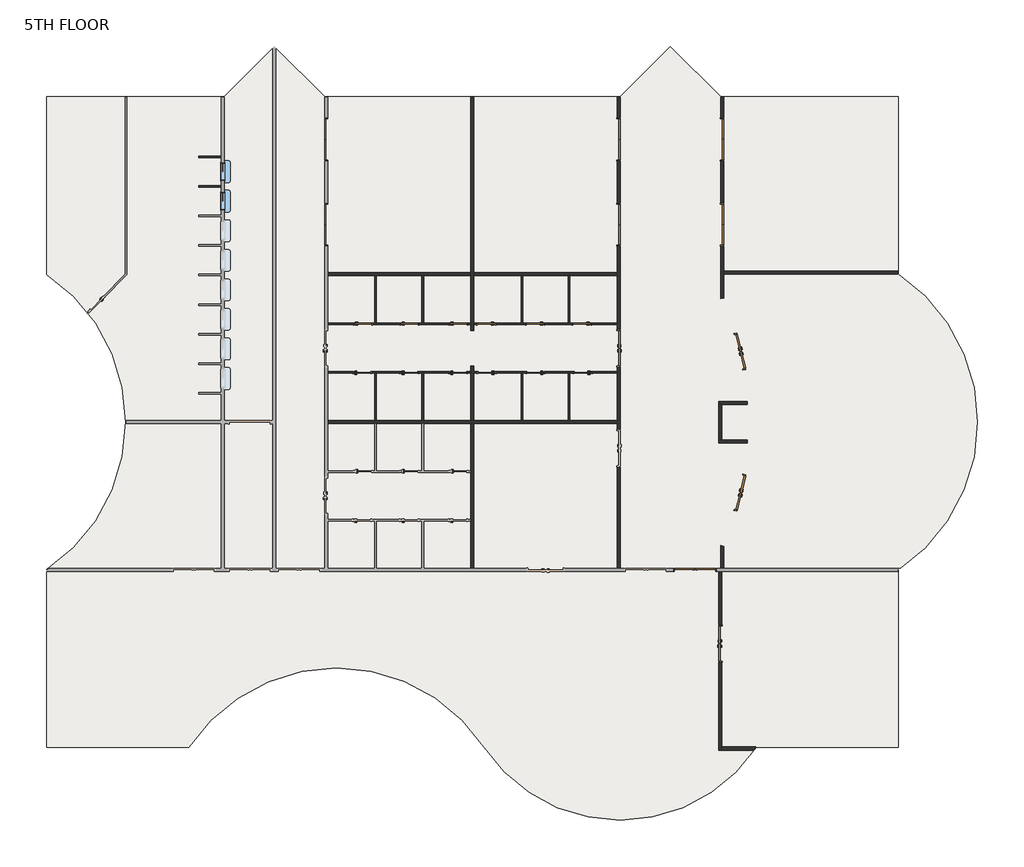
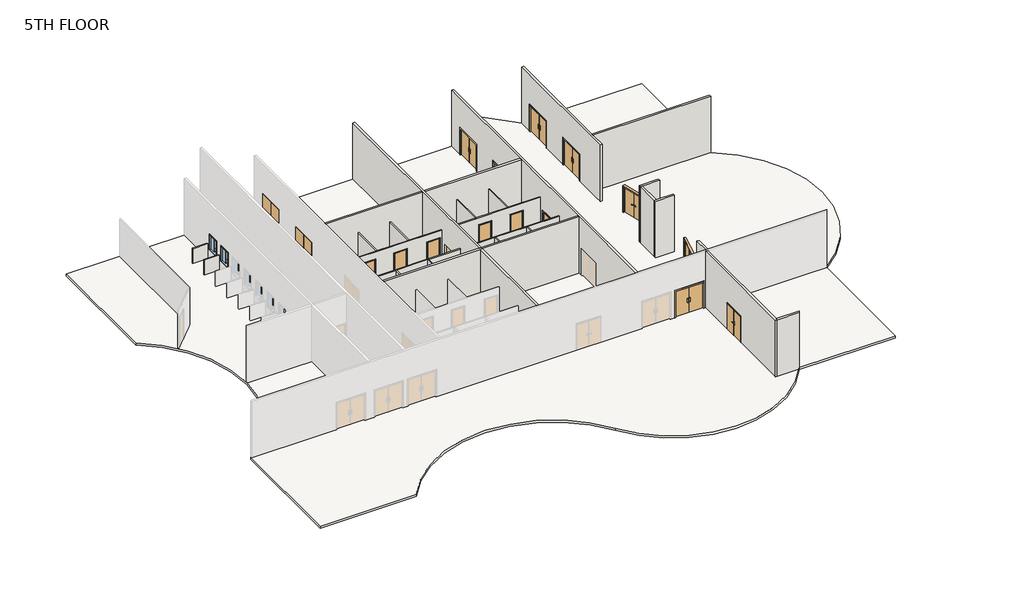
# One storey, part 2 of 2: 26 walls, 23 doors, 2 windows, 1 slab.
"""IFC4 building model written with IfcOpenShell, lengths in millimetres."""

from ifc_helpers import new_model, si_unit, point, frame, frame_2d, origin, place, context, project, spatial, polyline, circle_curve, trimmed, segment, composite_curve, outline, extrude, faceted_brep, transform, mapped, element, save
from ifc_brep_helpers import plane_surface, cylinder_surface, advanced_brep
from components import door_2f250f70, door_df8e76c5, door_0b13e4d9, door_b3a27a16, door_979b1b8c, door_f8b587be, pass_thru_4x3_19d81059

model = new_model("IFC4")

# Units and contexts
model_context = context("Model", 3, world=origin())
ifc_project = project(units=[si_unit("LENGTHUNIT", "METRE", prefix="MILLI")], contexts=[model_context])

# Site, building, storey
site = spatial("IfcSite", under=ifc_project)
building = spatial("IfcBuilding", under=site)
storey = spatial("IfcBuildingStorey", under=building, Name="5TH FLOOR", Elevation=22860.0)

# Doors
placement = place(None, origin())
door_shape = door_2f250f70(model_context)
element("IfcDoor", 1, ObjectType="Door-Passage-Double-Flush : 72\" x 82\"", at=placement, inside=storey, context=model_context, shape_type="MappedRepresentation", body=[
    mapped(door_shape, transform((35885.2621514, 20561.4429091, 22860.0), x_axis=(0.23975975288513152, -0.9708322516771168, 0.0), y_axis=(0.9708322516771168, 0.23975975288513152, 0.0), z_axis=(0.0, 0.0, 1.0))),
])
element("IfcDoor", 2, ObjectType="Door-Passage-Double-Flush : 72\" x 82\"", at=placement, inside=storey, context=model_context, shape_type="MappedRepresentation", body=[
    mapped(door_shape, transform((34887.5089577, 5494.3375, 22860.0), x_axis=(0.0, 1.0, 0.0), y_axis=(-1.0, 0.0, 0.0), z_axis=(0.0, 0.0, 1.0))),
])
door_2_shape = door_df8e76c5(model_context)
element("IfcDoor", 3, ObjectType="Door-Passage-Double-Flush : 72\" x 82\"", at=placement, inside=storey, context=model_context, shape_type="MappedRepresentation", body=[
    mapped(door_2_shape, transform((35886.7385063, 13277.3403388, 22860.0), x_axis=(0.23936619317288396, 0.9709293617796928, 0.0), y_axis=(-0.9709293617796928, 0.23936619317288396, 0.0), z_axis=(0.0, 0.0, 1.0))),
])
element("IfcDoor", 4, ObjectType="Door-Passage-Double-Flush : 72\" x 82\"", at=placement, inside=storey, context=model_context, shape_type="MappedRepresentation", body=[
    mapped(door_2_shape, transform((29628.0650257, 20729.575, 22860.0), x_axis=(0.0, 1.0, 0.0), y_axis=(-1.0, 0.0, 0.0), z_axis=(0.0, 0.0, 1.0))),
])
door_3_shape = door_0b13e4d9(model_context)
element("IfcDoor", 5, ObjectType="Door-Passage-Double-Flush-Dbl_Acting : 84\" x 84\"", at=placement, inside=storey, context=model_context, shape_type="MappedRepresentation", body=[
    mapped(door_3_shape, transform((33564.0300515, 9293.225, 22860.0), x_axis=(-1.0, 0.0, 0.0), y_axis=(0.0, -1.0, 0.0), z_axis=(0.0, 0.0, 1.0))),
])
element("IfcDoor", 6, ObjectType="Door-Passage-Double-Flush-Dbl_Acting : 84\" x 84\"", at=placement, inside=storey, context=model_context, shape_type="MappedRepresentation", body=[
    mapped(door_3_shape, transform((29628.0650257, 31499.175, 22860.0), x_axis=(0.0, 1.0, 0.0), y_axis=(-1.0, 0.0, 0.0), z_axis=(0.0, 0.0, 1.0))),
])
element("IfcDoor", 7, ObjectType="Door-Passage-Double-Flush-Dbl_Acting : 84\" x 84\"", at=placement, inside=storey, context=model_context, shape_type="MappedRepresentation", body=[
    mapped(door_3_shape, transform((29628.0650257, 27101.8, 22860.0), x_axis=(0.0, 1.0, 0.0), y_axis=(-1.0, 0.0, 0.0), z_axis=(0.0, 0.0, 1.0))),
])
door_4_shape = door_b3a27a16(model_context)
element("IfcDoor", 8, ObjectType="Door-Passage-Double-Flush-Dbl_Acting : 84\" x 84\"", at=placement, inside=storey, context=model_context, shape_type="MappedRepresentation", body=[
    mapped(door_4_shape, transform((14556.3400257, 31499.175, 22860.0), x_axis=(0.0, 1.0, 0.0), y_axis=(-1.0, 0.0, 0.0), z_axis=(0.0, 0.0, 1.0))),
])
element("IfcDoor", 9, ObjectType="Door-Passage-Double-Flush-Dbl_Acting : 84\" x 84\"", at=placement, inside=storey, context=model_context, shape_type="MappedRepresentation", body=[
    mapped(door_4_shape, transform((14556.3400257, 27101.8, 22860.0), x_axis=(0.0, 1.0, 0.0), y_axis=(-1.0, 0.0, 0.0), z_axis=(0.0, 0.0, 1.0))),
])
element("IfcDoor", 10, ObjectType="Door-Passage-Double-Flush-Dbl_Acting : 84\" x 84\"", at=placement, inside=storey, context=model_context, shape_type="MappedRepresentation", body=[
    mapped(door_4_shape, transform((34956.2675515, 31499.175, 22860.0), x_axis=(0.0, -1.0, 0.0), y_axis=(1.0, 0.0, 0.0), z_axis=(0.0, 0.0, 1.0))),
])
element("IfcDoor", 11, ObjectType="Door-Passage-Double-Flush-Dbl_Acting : 84\" x 84\"", at=placement, inside=storey, context=model_context, shape_type="MappedRepresentation", body=[
    mapped(door_4_shape, transform((34956.2675515, 27101.8, 22860.0), x_axis=(0.0, -1.0, 0.0), y_axis=(1.0, 0.0, 0.0), z_axis=(0.0, 0.0, 1.0))),
])
door_5_shape = door_979b1b8c(model_context)
element("IfcDoor", 12, ObjectType="Door-Passage-Single-Flush : 36\" x 96\"", at=placement, inside=storey, context=model_context, shape_type="MappedRepresentation", body=[
    mapped(door_5_shape, transform((16456.5775257, 21977.35, 22860.0), x_axis=(1.0, 0.0, 0.0), y_axis=(0.0, 1.0, 0.0), z_axis=(0.0, 0.0, 1.0))),
])
element("IfcDoor", 13, ObjectType="Door-Passage-Single-Flush : 36\" x 96\"", at=placement, inside=storey, context=model_context, shape_type="MappedRepresentation", body=[
    mapped(door_5_shape, transform((18855.2900257, 21977.35, 22860.0), x_axis=(1.0, 0.0, 0.0), y_axis=(0.0, 1.0, 0.0), z_axis=(0.0, 0.0, 1.0))),
])
element("IfcDoor", 14, ObjectType="Door-Passage-Single-Flush : 36\" x 96\"", at=placement, inside=storey, context=model_context, shape_type="MappedRepresentation", body=[
    mapped(door_5_shape, transform((21373.0650257, 21977.35, 22860.0), x_axis=(1.0, 0.0, 0.0), y_axis=(0.0, 1.0, 0.0), z_axis=(0.0, 0.0, 1.0))),
])
element("IfcDoor", 15, ObjectType="Door-Passage-Single-Flush : 36\" x 96\"", at=placement, inside=storey, context=model_context, shape_type="MappedRepresentation", body=[
    mapped(door_5_shape, transform((27778.6275257, 19481.8, 22860.0), x_axis=(-1.0, 0.0, 0.0), y_axis=(0.0, -1.0, 0.0), z_axis=(0.0, 0.0, 1.0))),
])
element("IfcDoor", 16, ObjectType="Door-Passage-Single-Flush : 36\" x 96\"", at=placement, inside=storey, context=model_context, shape_type="MappedRepresentation", body=[
    mapped(door_5_shape, transform((25348.1650257, 19481.8, 22860.0), x_axis=(-1.0, 0.0, 0.0), y_axis=(0.0, -1.0, 0.0), z_axis=(0.0, 0.0, 1.0))),
])
element("IfcDoor", 17, ObjectType="Door-Passage-Single-Flush : 36\" x 96\"", at=placement, inside=storey, context=model_context, shape_type="MappedRepresentation", body=[
    mapped(door_5_shape, transform((22830.3900257, 19481.8, 22860.0), x_axis=(-1.0, 0.0, 0.0), y_axis=(0.0, -1.0, 0.0), z_axis=(0.0, 0.0, 1.0))),
])
door_6_shape = door_f8b587be(model_context)
element("IfcDoor", 18, ObjectType="Door-Passage-Single-Flush : 36\" x 96\"", at=placement, inside=storey, context=model_context, shape_type="MappedRepresentation", body=[
    mapped(door_6_shape, transform((16405.7775257, 19481.8, 22860.0), x_axis=(1.0, 0.0, 0.0), y_axis=(0.0, 1.0, 0.0), z_axis=(0.0, 0.0, 1.0))),
])
element("IfcDoor", 19, ObjectType="Door-Passage-Single-Flush : 36\" x 96\"", at=placement, inside=storey, context=model_context, shape_type="MappedRepresentation", body=[
    mapped(door_6_shape, transform((18836.2400257, 19481.8, 22860.0), x_axis=(1.0, 0.0, 0.0), y_axis=(0.0, 1.0, 0.0), z_axis=(0.0, 0.0, 1.0))),
])
element("IfcDoor", 20, ObjectType="Door-Passage-Single-Flush : 36\" x 96\"", at=placement, inside=storey, context=model_context, shape_type="MappedRepresentation", body=[
    mapped(door_6_shape, transform((21354.0150257, 19481.8, 22860.0), x_axis=(1.0, 0.0, 0.0), y_axis=(0.0, 1.0, 0.0), z_axis=(0.0, 0.0, 1.0))),
])
element("IfcDoor", 21, ObjectType="Door-Passage-Single-Flush : 36\" x 96\"", at=placement, inside=storey, context=model_context, shape_type="MappedRepresentation", body=[
    mapped(door_6_shape, transform((27727.8275257, 21977.35, 22860.0), x_axis=(-1.0, 0.0, 0.0), y_axis=(0.0, -1.0, 0.0), z_axis=(0.0, 0.0, 1.0))),
])
element("IfcDoor", 22, ObjectType="Door-Passage-Single-Flush : 36\" x 96\"", at=placement, inside=storey, context=model_context, shape_type="MappedRepresentation", body=[
    mapped(door_6_shape, transform((25329.1150257, 21977.35, 22860.0), x_axis=(-1.0, 0.0, 0.0), y_axis=(0.0, -1.0, 0.0), z_axis=(0.0, 0.0, 1.0))),
])
element("IfcDoor", 23, ObjectType="Door-Passage-Single-Flush : 36\" x 96\"", at=placement, inside=storey, context=model_context, shape_type="MappedRepresentation", body=[
    mapped(door_6_shape, transform((22811.3400257, 21977.35, 22860.0), x_axis=(-1.0, 0.0, 0.0), y_axis=(0.0, -1.0, 0.0), z_axis=(0.0, 0.0, 1.0))),
])

# Slab
element("IfcSlab", 24, ObjectType="ARCHITECTURAL FINISH FLOOR", at=placement, inside=storey, context=model_context, shape_type="SweptSolid", body=[
    extrude(outline(composite_curve([segment(polyline([(9294.3144878, 33696.275), (11885.8887629, 36287.8492751), (14477.463038, 33696.275), (29706.9420135, 33696.275), (32298.5162886, 36287.8492751), (34890.0905637, 33696.275), (44041.5300515, 33696.275), (44041.5300515, 24546.3877275)]), True, "CONTINUOUS"), segment(trimmed(circle_curve(frame_2d((38974.293871, 16919.575)), 9156.7), [point((44041.5300515, 24546.3877275))], [point((44041.5300515, 9292.7622725))], False, "CARTESIAN"), True, "CONTINUOUS"), segment(polyline([(44041.5300515, 9292.7622725), (44041.5300515, 142.875), (36720.4425102, 142.875)]), True, "CONTINUOUS"), segment(trimmed(circle_curve(frame_2d((29712.2025257, 4799.7966199)), 8414.4130309), [point((36720.4425102, 142.875))], [point((22700.1916667, 148.5548109))], False, "CARTESIAN"), True, "CONTINUOUS"), segment(trimmed(circle_curve(frame_2d((15090.775, -4898.9611805)), 9131.3), [point((22700.1916667, 148.5548109))], [point((7477.593824, 142.875))], True, "CARTESIAN"), True, "CONTINUOUS"), segment(polyline([(7477.593824, 142.875), (142.875, 142.875), (142.875, 9306.393824)]), True, "CONTINUOUS"), segment(trimmed(circle_curve(frame_2d((-4898.9611805, 16919.575)), 9131.3), [point((142.875, 9306.393824))], [point((142.875, 24532.756176))], True, "CARTESIAN"), True, "CONTINUOUS"), segment(polyline([(142.875, 24532.756176), (142.875, 33696.275), (9294.3144878, 33696.275)]), True, "CONTINUOUS")], self_intersect=False)), frame((0.0, 0.0, 22707.6), z_axis=(0.0, 0.0, 1.0), x_axis=(1.0, 0.0, 0.0)), (0.0, 0.0, 1.0), 171.45),
])

# Walls
element("IfcWall", 25, ObjectType="SYR_INT_ONE_HOUR", at=placement, inside=storey, context=model_context, shape_type="SweptSolid", body=[
    extrude(outline(polyline([(17066.1775257, 22023.3875), (17066.1775257, 24461.7875), (17145.5525257, 24461.7875), (17145.5525257, 22023.3875), (17066.1775257, 22023.3875)])), frame((0.0, 0.0, 22860.0), z_axis=(0.0, 0.0, 1.0), x_axis=(1.0, 0.0, 0.0)), (0.0, 0.0, 1.0), 3048.0),
])
element("IfcWall", 26, ObjectType="SYR_INT_ONE_HOUR", at=placement, inside=storey, context=model_context, shape_type="SweptSolid", body=[
    extrude(outline(polyline([(19576.0150257, 19435.7625), (19576.0150257, 16997.3625), (19496.6400257, 16997.3625), (19496.6400257, 19435.7625), (19576.0150257, 19435.7625)])), frame((0.0, 0.0, 22860.0), z_axis=(0.0, 0.0, 1.0), x_axis=(1.0, 0.0, 0.0)), (0.0, 0.0, 1.0), 3048.0),
])
element("IfcWall", 27, ObjectType="SYR_INT_ONE_HOUR", at=placement, inside=storey, context=model_context, shape_type="Brep", body=[
    faceted_brep([(14627.7775257, 22023.3875, 25908.0), (17066.1775257, 22023.3875, 25908.0), (17145.5525257, 22023.3875, 25908.0), (19496.6400257, 22023.3875, 25908.0), (19576.0150257, 22023.3875, 25908.0), (22014.4150257, 22023.3875, 25908.0), (22014.4150257, 22023.3875, 22860.0), (21862.0150257, 22023.3875, 22860.0), (21862.0150257, 22023.3875, 25330.15), (20884.1150257, 22023.3875, 25330.15), (20884.1150257, 22023.3875, 22860.0), (19576.0150257, 22023.3875, 22860.0), (19496.6400257, 22023.3875, 22860.0), (19344.2400257, 22023.3875, 22860.0), (19344.2400257, 22023.3875, 25330.15), (18366.3400257, 22023.3875, 25330.15), (18366.3400257, 22023.3875, 22860.0), (17145.5525257, 22023.3875, 22860.0), (17066.1775257, 22023.3875, 22860.0), (16945.5275257, 22023.3875, 22860.0), (16945.5275257, 22023.3875, 25330.15), (15967.6275257, 22023.3875, 25330.15), (15967.6275257, 22023.3875, 22860.0), (14627.7775257, 22023.3875, 22860.0), (22014.4150257, 21944.0125, 25908.0), (14627.7775257, 21944.0125, 25908.0), (14627.7775257, 21944.0125, 22860.0), (15967.6275257, 21944.0125, 22860.0), (15967.6275257, 21944.0125, 25330.15), (16945.5275257, 21944.0125, 25330.15), (16945.5275257, 21944.0125, 22860.0), (18366.3400257, 21944.0125, 22860.0), (18366.3400257, 21944.0125, 25330.15), (19344.2400257, 21944.0125, 25330.15), (19344.2400257, 21944.0125, 22860.0), (20884.1150257, 21944.0125, 22860.0), (20884.1150257, 21944.0125, 25330.15), (21862.0150257, 21944.0125, 25330.15), (21862.0150257, 21944.0125, 22860.0), (22014.4150257, 21944.0125, 22860.0)], [[[0, 1, 2, 3, 4, 5, 6, 7, 8, 9, 10, 11, 12, 13, 14, 15, 16, 17, 18, 19, 20, 21, 22, 23]], [[24, 25, 26, 27, 28, 29, 30, 31, 32, 33, 34, 35, 36, 37, 38, 39]], [[23, 22, 27, 26]], [[30, 19, 18, 17, 16, 31]], [[34, 13, 12, 11, 10, 35]], [[6, 39, 38, 7]], [[5, 4, 3, 2, 1, 0, 25, 24]], [[29, 20, 19, 30]], [[20, 29, 28, 21]], [[21, 28, 27, 22]], [[14, 13, 34, 33]], [[15, 14, 33, 32]], [[16, 15, 32, 31]], [[37, 8, 7, 38]], [[8, 37, 36, 9]], [[9, 36, 35, 10]], [[0, 23, 26, 25]], [[6, 5, 24, 39]]]),
])
element("IfcWall", 28, ObjectType="SYR_INT_ONE_HOUR", at=placement, inside=storey, context=model_context, shape_type="Brep", body=[
    faceted_brep([(14627.7775257, 19515.1375, 25908.0), (22014.4150257, 19515.1375, 25908.0), (22014.4150257, 19515.1375, 22860.0), (21842.9650257, 19515.1375, 22860.0), (21842.9650257, 19515.1375, 25330.15), (20865.0650257, 19515.1375, 25330.15), (20865.0650257, 19515.1375, 22860.0), (19325.1900257, 19515.1375, 22860.0), (19325.1900257, 19515.1375, 25330.15), (18347.2900257, 19515.1375, 25330.15), (18347.2900257, 19515.1375, 22860.0), (16894.7275257, 19515.1375, 22860.0), (16894.7275257, 19515.1375, 25330.15), (15916.8275257, 19515.1375, 25330.15), (15916.8275257, 19515.1375, 22860.0), (14627.7775257, 19515.1375, 22860.0), (22014.4150257, 19435.7625, 25908.0), (19576.0150257, 19435.7625, 25908.0), (19496.6400257, 19435.7625, 25908.0), (17145.5525257, 19435.7625, 25908.0), (17066.1775257, 19435.7625, 25908.0), (14627.7775257, 19435.7625, 25908.0), (14627.7775257, 19435.7625, 22860.0), (15916.8275257, 19435.7625, 22860.0), (15916.8275257, 19435.7625, 25330.15), (16894.7275257, 19435.7625, 25330.15), (16894.7275257, 19435.7625, 22860.0), (17066.1775257, 19435.7625, 22860.0), (17145.5525257, 19435.7625, 22860.0), (18347.2900257, 19435.7625, 22860.0), (18347.2900257, 19435.7625, 25330.15), (19325.1900257, 19435.7625, 25330.15), (19325.1900257, 19435.7625, 22860.0), (19496.6400257, 19435.7625, 22860.0), (19576.0150257, 19435.7625, 22860.0), (20865.0650257, 19435.7625, 22860.0), (20865.0650257, 19435.7625, 25330.15), (21842.9650257, 19435.7625, 25330.15), (21842.9650257, 19435.7625, 22860.0), (22014.4150257, 19435.7625, 22860.0)], [[[0, 1, 2, 3, 4, 5, 6, 7, 8, 9, 10, 11, 12, 13, 14, 15]], [[16, 17, 18, 19, 20, 21, 22, 23, 24, 25, 26, 27, 28, 29, 30, 31, 32, 33, 34, 35, 36, 37, 38, 39]], [[15, 14, 23, 22]], [[26, 11, 10, 29, 28, 27]], [[32, 7, 6, 35, 34, 33]], [[2, 39, 38, 3]], [[1, 0, 21, 20, 19, 18, 17, 16]], [[25, 12, 11, 26]], [[12, 25, 24, 13]], [[13, 24, 23, 14]], [[31, 8, 7, 32]], [[8, 31, 30, 9]], [[9, 30, 29, 10]], [[37, 4, 3, 38]], [[4, 37, 36, 5]], [[5, 36, 35, 6]], [[0, 15, 22, 21]], [[2, 1, 16, 39]]]),
])
element("IfcWall", 29, ObjectType="SYR_INT_ONE_HOUR", at=placement, inside=storey, context=model_context, shape_type="SweptSolid", body=[
    extrude(outline(polyline([(17066.1775257, 16997.3625), (17066.1775257, 19435.7625), (17145.5525257, 19435.7625), (17145.5525257, 16997.3625), (17066.1775257, 16997.3625)])), frame((0.0, 0.0, 22860.0), z_axis=(0.0, 0.0, 1.0), x_axis=(1.0, 0.0, 0.0)), (0.0, 0.0, 1.0), 3048.0),
])
element("IfcWall", 30, ObjectType="SYR_INT_ONE_HOUR", at=placement, inside=storey, context=model_context, shape_type="SweptSolid", body=[
    extrude(outline(polyline([(19576.0150257, 24461.7875), (19576.0150257, 22023.3875), (19496.6400257, 22023.3875), (19496.6400257, 24461.7875), (19576.0150257, 24461.7875)])), frame((0.0, 0.0, 22860.0), z_axis=(0.0, 0.0, 1.0), x_axis=(1.0, 0.0, 0.0)), (0.0, 0.0, 1.0), 3048.0),
])
element("IfcWall", 31, ObjectType="SYR_INT_ONE_HOUR", at=placement, inside=storey, context=model_context, shape_type="SweptSolid", body=[
    extrude(outline(polyline([(7979.2710938, 29111.575), (9144.0, 29111.575), (9144.0, 29032.2), (7979.2710938, 29032.2), (7979.2710938, 29111.575)])), frame((0.0, 0.0, 22860.0), z_axis=(0.0, 0.0, 1.0), x_axis=(1.0, 0.0, 0.0)), (0.0, 0.0, 1.0), 1219.2),
])
element("IfcWall", 32, ObjectType="SYR_INT_ONE_HOUR", at=placement, inside=storey, context=model_context, shape_type="SweptSolid", body=[
    extrude(outline(polyline([(7979.2710938, 30635.575), (9144.0, 30635.575), (9144.0, 30556.2), (7979.2710938, 30556.2), (7979.2710938, 30635.575)])), frame((0.0, 0.0, 22860.0), z_axis=(0.0, 0.0, 1.0), x_axis=(1.0, 0.0, 0.0)), (0.0, 0.0, 1.0), 1219.2),
])
element("IfcWall", 33, ObjectType="SYR_INT_ONE_HOUR", at=placement, inside=storey, context=model_context, shape_type="SweptSolid", body=[
    extrude(outline(polyline([(27038.8525257, 22023.3875), (27038.8525257, 24461.7875), (27118.2275257, 24461.7875), (27118.2275257, 22023.3875), (27038.8525257, 22023.3875)])), frame((0.0, 0.0, 22860.0), z_axis=(0.0, 0.0, 1.0), x_axis=(1.0, 0.0, 0.0)), (0.0, 0.0, 1.0), 3048.0),
])
element("IfcWall", 34, ObjectType="SYR_INT_ONE_HOUR", at=placement, inside=storey, context=model_context, shape_type="SweptSolid", body=[
    extrude(outline(polyline([(24687.7650257, 19435.7625), (24687.7650257, 16997.3625), (24608.3900257, 16997.3625), (24608.3900257, 19435.7625), (24687.7650257, 19435.7625)])), frame((0.0, 0.0, 22860.0), z_axis=(0.0, 0.0, 1.0), x_axis=(1.0, 0.0, 0.0)), (0.0, 0.0, 1.0), 3048.0),
])
element("IfcWall", 35, ObjectType="SYR_INT_ONE_HOUR", at=placement, inside=storey, context=model_context, shape_type="Brep", body=[
    faceted_brep([(29556.6275257, 21944.0125, 25908.0), (22169.9900257, 21944.0125, 25908.0), (22169.9900257, 21944.0125, 22860.0), (22322.3900257, 21944.0125, 22860.0), (22322.3900257, 21944.0125, 25330.15), (23300.2900257, 21944.0125, 25330.15), (23300.2900257, 21944.0125, 22860.0), (24840.1650257, 21944.0125, 22860.0), (24840.1650257, 21944.0125, 25330.15), (25818.0650257, 21944.0125, 25330.15), (25818.0650257, 21944.0125, 22860.0), (27238.8775257, 21944.0125, 22860.0), (27238.8775257, 21944.0125, 25330.15), (28216.7775257, 21944.0125, 25330.15), (28216.7775257, 21944.0125, 22860.0), (29556.6275257, 21944.0125, 22860.0), (22169.9900257, 22023.3875, 25908.0), (24608.3900257, 22023.3875, 25908.0), (24687.7650257, 22023.3875, 25908.0), (27038.8525257, 22023.3875, 25908.0), (27118.2275257, 22023.3875, 25908.0), (29556.6275257, 22023.3875, 25908.0), (29556.6275257, 22023.3875, 22860.0), (28216.7775257, 22023.3875, 22860.0), (28216.7775257, 22023.3875, 25330.15), (27238.8775257, 22023.3875, 25330.15), (27238.8775257, 22023.3875, 22860.0), (27118.2275257, 22023.3875, 22860.0), (27038.8525257, 22023.3875, 22860.0), (25818.0650257, 22023.3875, 22860.0), (25818.0650257, 22023.3875, 25330.15), (24840.1650257, 22023.3875, 25330.15), (24840.1650257, 22023.3875, 22860.0), (24687.7650257, 22023.3875, 22860.0), (24608.3900257, 22023.3875, 22860.0), (23300.2900257, 22023.3875, 22860.0), (23300.2900257, 22023.3875, 25330.15), (22322.3900257, 22023.3875, 25330.15), (22322.3900257, 22023.3875, 22860.0), (22169.9900257, 22023.3875, 22860.0)], [[[0, 1, 2, 3, 4, 5, 6, 7, 8, 9, 10, 11, 12, 13, 14, 15]], [[16, 17, 18, 19, 20, 21, 22, 23, 24, 25, 26, 27, 28, 29, 30, 31, 32, 33, 34, 35, 36, 37, 38, 39]], [[15, 14, 23, 22]], [[26, 11, 10, 29, 28, 27]], [[32, 7, 6, 35, 34, 33]], [[2, 39, 38, 3]], [[1, 0, 21, 20, 19, 18, 17, 16]], [[25, 12, 11, 26]], [[12, 25, 24, 13]], [[13, 24, 23, 14]], [[8, 7, 32, 31]], [[9, 8, 31, 30]], [[10, 9, 30, 29]], [[37, 4, 3, 38]], [[4, 37, 36, 5]], [[5, 36, 35, 6]], [[0, 15, 22, 21]], [[2, 1, 16, 39]]]),
])
element("IfcWall", 36, ObjectType="SYR_INT_ONE_HOUR", at=placement, inside=storey, context=model_context, shape_type="Brep", body=[
    faceted_brep([(29556.6275257, 19435.7625, 25908.0), (27118.2275257, 19435.7625, 25908.0), (27038.8525257, 19435.7625, 25908.0), (24687.7650257, 19435.7625, 25908.0), (24608.3900257, 19435.7625, 25908.0), (22169.9900257, 19435.7625, 25908.0), (22169.9900257, 19435.7625, 22860.0), (22341.4400257, 19435.7625, 22860.0), (22341.4400257, 19435.7625, 25330.15), (23319.3400257, 19435.7625, 25330.15), (23319.3400257, 19435.7625, 22860.0), (24608.3900257, 19435.7625, 22860.0), (24687.7650257, 19435.7625, 22860.0), (24859.2150257, 19435.7625, 22860.0), (24859.2150257, 19435.7625, 25330.15), (25837.1150257, 19435.7625, 25330.15), (25837.1150257, 19435.7625, 22860.0), (27038.8525257, 19435.7625, 22860.0), (27118.2275257, 19435.7625, 22860.0), (27289.6775257, 19435.7625, 22860.0), (27289.6775257, 19435.7625, 25330.15), (28267.5775257, 19435.7625, 25330.15), (28267.5775257, 19435.7625, 22860.0), (29556.6275257, 19435.7625, 22860.0), (22169.9900257, 19515.1375, 25908.0), (29556.6275257, 19515.1375, 25908.0), (29556.6275257, 19515.1375, 22860.0), (28267.5775257, 19515.1375, 22860.0), (28267.5775257, 19515.1375, 25330.15), (27289.6775257, 19515.1375, 25330.15), (27289.6775257, 19515.1375, 22860.0), (25837.1150257, 19515.1375, 22860.0), (25837.1150257, 19515.1375, 25330.15), (24859.2150257, 19515.1375, 25330.15), (24859.2150257, 19515.1375, 22860.0), (23319.3400257, 19515.1375, 22860.0), (23319.3400257, 19515.1375, 25330.15), (22341.4400257, 19515.1375, 25330.15), (22341.4400257, 19515.1375, 22860.0), (22169.9900257, 19515.1375, 22860.0)], [[[0, 1, 2, 3, 4, 5, 6, 7, 8, 9, 10, 11, 12, 13, 14, 15, 16, 17, 18, 19, 20, 21, 22, 23]], [[24, 25, 26, 27, 28, 29, 30, 31, 32, 33, 34, 35, 36, 37, 38, 39]], [[23, 22, 27, 26]], [[30, 19, 18, 17, 16, 31]], [[34, 13, 12, 11, 10, 35]], [[6, 39, 38, 7]], [[5, 4, 3, 2, 1, 0, 25, 24]], [[29, 20, 19, 30]], [[20, 29, 28, 21]], [[21, 28, 27, 22]], [[33, 14, 13, 34]], [[14, 33, 32, 15]], [[15, 32, 31, 16]], [[37, 8, 7, 38]], [[8, 37, 36, 9]], [[9, 36, 35, 10]], [[0, 23, 26, 25]], [[6, 5, 24, 39]]]),
])
element("IfcWall", 37, ObjectType="SYR_INT_ONE_HOUR", at=placement, inside=storey, context=model_context, shape_type="SweptSolid", body=[
    extrude(outline(polyline([(27038.8525257, 16997.3625), (27038.8525257, 19435.7625), (27118.2275257, 19435.7625), (27118.2275257, 16997.3625), (27038.8525257, 16997.3625)])), frame((0.0, 0.0, 22860.0), z_axis=(0.0, 0.0, 1.0), x_axis=(1.0, 0.0, 0.0)), (0.0, 0.0, 1.0), 3048.0),
])
element("IfcWall", 38, ObjectType="SYR_INT_ONE_HOUR", at=placement, inside=storey, context=model_context, shape_type="SweptSolid", body=[
    extrude(outline(polyline([(24687.7650257, 24461.7875), (24687.7650257, 22023.3875), (24608.3900257, 22023.3875), (24608.3900257, 24461.7875), (24687.7650257, 24461.7875)])), frame((0.0, 0.0, 22860.0), z_axis=(0.0, 0.0, 1.0), x_axis=(1.0, 0.0, 0.0)), (0.0, 0.0, 1.0), 3048.0),
])
element("IfcWall", 39, ObjectType="SYR_INT_TWO_HOUR", at=placement, inside=storey, context=model_context, shape_type="Brep", body=[
    faceted_brep([(34803.3714577, 0.0, 27432.0), (34803.3714577, 9221.7875, 27432.0), (34803.3714577, 9221.7875, 22860.0), (34803.3714577, 6459.5375, 22860.0), (34803.3714577, 6459.5375, 25044.4), (34803.3714577, 4529.1375, 25044.4), (34803.3714577, 4529.1375, 22860.0), (34803.3714577, 0.0, 22860.0), (34958.9464577, 9221.7875, 27432.0), (34958.9464577, 155.575, 27432.0), (34958.9464577, 0.0, 27432.0), (34958.9464577, 0.0, 22860.0), (34958.9464577, 155.575, 22860.0), (34958.9464577, 4529.1375, 22860.0), (34958.9464577, 4529.1375, 25044.4), (34958.9464577, 6459.5375, 25044.4), (34958.9464577, 6459.5375, 22860.0), (34958.9464577, 9221.7875, 22860.0)], [[[0, 1, 2, 3, 4, 5, 6, 7]], [[8, 9, 10, 11, 12, 13, 14, 15, 16, 17]], [[2, 17, 16, 3]], [[11, 7, 6, 13, 12]], [[1, 0, 10, 9, 8]], [[2, 1, 8, 17]], [[0, 7, 11, 10]], [[15, 4, 3, 16]], [[4, 15, 14, 5]], [[5, 14, 13, 6]]]),
])
element("IfcWall", 40, ObjectType="SYR_INT_TWO_HOUR", at=placement, inside=storey, context=model_context, shape_type="SweptSolid", body=[
    extrude(outline(composite_curve([segment(polyline([(36607.9065696, 0.0), (34958.9464577, 0.0), (34958.9464577, 155.575), (36713.6300515, 155.575)]), True, "CONTINUOUS"), segment(trimmed(circle_curve(frame_2d((29712.2025257, 4799.7966199)), 8401.7130309), [point((36713.6300515, 155.575))], [point((36607.9065696, 0.0))], False, "CARTESIAN"), True, "CONTINUOUS")], self_intersect=False)), frame((0.0, 0.0, 22860.0), z_axis=(0.0, 0.0, 1.0), x_axis=(1.0, 0.0, 0.0)), (0.0, 0.0, 1.0), 4572.0),
])
element("IfcWall", 41, ObjectType="SYR_INT_TWO_HOUR", at=placement, inside=storey, context=model_context, shape_type="Brep", body=[
    faceted_brep([(29556.6275257, 9377.3625, 27432.0), (29556.6275257, 16841.7875, 27432.0), (29556.6275257, 16997.3625, 27432.0), (29556.6275257, 24461.7875, 27432.0), (29556.6275257, 24617.3625, 27432.0), (29556.6275257, 33683.575, 27432.0), (29556.6275257, 33683.575, 22860.0), (29556.6275257, 32616.775, 22860.0), (29556.6275257, 32616.775, 25095.2), (29556.6275257, 30381.575, 25095.2), (29556.6275257, 30381.575, 22860.0), (29556.6275257, 28219.4, 22860.0), (29556.6275257, 28219.4, 25095.2), (29556.6275257, 25984.2, 25095.2), (29556.6275257, 25984.2, 22860.0), (29556.6275257, 24617.3625, 22860.0), (29556.6275257, 24461.7875, 22860.0), (29556.6275257, 22023.3875, 22860.0), (29556.6275257, 21944.0125, 22860.0), (29556.6275257, 21694.775, 22860.0), (29556.6275257, 21694.775, 25044.4), (29556.6275257, 19764.375, 25044.4), (29556.6275257, 19764.375, 22860.0), (29556.6275257, 19515.1375, 22860.0), (29556.6275257, 19435.7625, 22860.0), (29556.6275257, 16997.3625, 22860.0), (29556.6275257, 16841.7875, 22860.0), (29556.6275257, 16536.9875, 22860.0), (29556.6275257, 16536.9875, 25044.4), (29556.6275257, 14606.5875, 25044.4), (29556.6275257, 14606.5875, 22860.0), (29556.6275257, 9377.3625, 22860.0), (29712.2025257, 33683.575, 27432.0), (29712.2025257, 9377.3625, 27432.0), (29712.2025257, 9377.3625, 22860.0), (29712.2025257, 14606.5875, 22860.0), (29712.2025257, 14606.5875, 25044.4), (29712.2025257, 16536.9875, 25044.4), (29712.2025257, 16536.9875, 22860.0), (29712.2025257, 19764.375, 22860.0), (29712.2025257, 19764.375, 25044.4), (29712.2025257, 21694.775, 25044.4), (29712.2025257, 21694.775, 22860.0), (29712.2025257, 25984.2, 22860.0), (29712.2025257, 25984.2, 25095.2), (29712.2025257, 28219.4, 25095.2), (29712.2025257, 28219.4, 22860.0), (29712.2025257, 30381.575, 22860.0), (29712.2025257, 30381.575, 25095.2), (29712.2025257, 32616.775, 25095.2), (29712.2025257, 32616.775, 22860.0), (29712.2025257, 33683.575, 22860.0)], [[[0, 1, 2, 3, 4, 5, 6, 7, 8, 9, 10, 11, 12, 13, 14, 15, 16, 17, 18, 19, 20, 21, 22, 23, 24, 25, 26, 27, 28, 29, 30, 31]], [[32, 33, 34, 35, 36, 37, 38, 39, 40, 41, 42, 43, 44, 45, 46, 47, 48, 49, 50, 51]], [[34, 31, 30, 35]], [[42, 19, 18, 17, 16, 15, 14, 43]], [[22, 39, 38, 27, 26, 25, 24, 23]], [[46, 11, 10, 47]], [[7, 6, 51, 50]], [[5, 4, 3, 2, 1, 0, 33, 32]], [[0, 31, 34, 33]], [[41, 20, 19, 42]], [[20, 41, 40, 21]], [[21, 40, 39, 22]], [[45, 12, 11, 46]], [[12, 45, 44, 13]], [[13, 44, 43, 14]], [[49, 8, 7, 50]], [[8, 49, 48, 9]], [[9, 48, 47, 10]], [[29, 36, 35, 30]], [[36, 29, 28, 37]], [[37, 28, 27, 38]], [[6, 5, 32, 51]]]),
])
element("IfcWall", 42, ObjectType="SYR_INT_TWO_HOUR", at=placement, inside=storey, context=model_context, shape_type="Brep", body=[
    faceted_brep([(34884.8300515, 23286.7810764, 27432.0), (34884.8300515, 33683.575, 27432.0), (34884.8300515, 33683.575, 22860.0), (34884.8300515, 32616.775, 22860.0), (34884.8300515, 32616.775, 25095.2), (34884.8300515, 30381.575, 25095.2), (34884.8300515, 30381.575, 22860.0), (34884.8300515, 28219.4, 22860.0), (34884.8300515, 28219.4, 25095.2), (34884.8300515, 25984.2, 25095.2), (34884.8300515, 25984.2, 22860.0), (34884.8300515, 23286.7810764, 22860.0), (35040.4050515, 33683.575, 27432.0), (35040.4050515, 24695.15, 27432.0), (35040.4050515, 24539.575, 27432.0), (35040.4050515, 23320.9573614, 27432.0), (35040.4050515, 23320.9573614, 22860.0), (35040.4050515, 24539.575, 22860.0), (35040.4050515, 24695.15, 22860.0), (35040.4050515, 25984.2, 22860.0), (35040.4050515, 25984.2, 25095.2), (35040.4050515, 28219.4, 25095.2), (35040.4050515, 28219.4, 22860.0), (35040.4050515, 30381.575, 22860.0), (35040.4050515, 30381.575, 25095.2), (35040.4050515, 32616.775, 25095.2), (35040.4050515, 32616.775, 22860.0), (35040.4050515, 33683.575, 22860.0)], [[[0, 1, 2, 3, 4, 5, 6, 7, 8, 9, 10, 11]], [[12, 13, 14, 15, 16, 17, 18, 19, 20, 21, 22, 23, 24, 25, 26, 27]], [[16, 11, 10, 19, 18, 17]], [[3, 2, 27, 26]], [[6, 23, 22, 7]], [[1, 0, 15, 14, 13, 12]], [[0, 11, 16, 15]], [[5, 24, 23, 6]], [[24, 5, 4, 25]], [[25, 4, 3, 26]], [[9, 20, 19, 10]], [[20, 9, 8, 21]], [[21, 8, 7, 22]], [[2, 1, 12, 27]]]),
])
element("IfcWall", 43, ObjectType="SYR_INT_TWO_HOUR", at=placement, inside=storey, context=model_context, shape_type="Brep", body=[
    faceted_brep([(14627.7775257, 16841.7875, 22860.0), (17066.1775257, 16841.7875, 22860.0), (17145.5525257, 16841.7875, 22860.0), (19496.6400257, 16841.7875, 22860.0), (19576.0150257, 16841.7875, 22860.0), (22014.4150257, 16841.7875, 22860.0), (22169.9900257, 16841.7875, 22860.0), (29556.6275257, 16841.7875, 22860.0), (29556.6275257, 16841.7875, 27432.0), (22169.9900257, 16841.7875, 27432.0), (22014.4150257, 16841.7875, 27432.0), (14627.7775257, 16841.7875, 27432.0), (14627.7775257, 16997.3625, 22860.0), (14627.7775257, 16997.3625, 27432.0), (22014.4150257, 16997.3625, 27432.0), (22169.9900257, 16997.3625, 27432.0), (29556.6275257, 16997.3625, 27432.0), (29556.6275257, 16997.3625, 22860.0), (27118.2275257, 16997.3625, 22860.0), (27038.8525257, 16997.3625, 22860.0), (24687.7650257, 16997.3625, 22860.0), (24608.3900257, 16997.3625, 22860.0), (22169.9900257, 16997.3625, 22860.0), (22014.4150257, 16997.3625, 22860.0), (19576.0150257, 16997.3625, 22860.0), (19496.6400257, 16997.3625, 22860.0), (17145.5525257, 16997.3625, 22860.0), (17066.1775257, 16997.3625, 22860.0)], [[[0, 1, 2, 3, 4, 5, 6, 7, 8, 9, 10, 11]], [[12, 13, 14, 15, 16, 17, 18, 19, 20, 21, 22, 23, 24, 25, 26, 27]], [[7, 6, 5, 4, 3, 2, 1, 0, 12, 27, 26, 25, 24, 23, 22, 21, 20, 19, 18, 17]], [[11, 10, 9, 8, 16, 15, 14, 13]], [[0, 11, 13, 12]], [[8, 7, 17, 16]]]),
])
element("IfcWall", 44, ObjectType="SYR_INT_TWO_HOUR", at=placement, inside=storey, context=model_context, shape_type="Brep", body=[
    faceted_brep([(22169.9900257, 9377.3625, 27432.0), (22169.9900257, 9377.3625, 22860.0), (22169.9900257, 16841.7875, 22860.0), (22169.9900257, 16841.7875, 27432.0), (22014.4150257, 9377.3625, 22860.0), (22014.4150257, 9377.3625, 27432.0), (22014.4150257, 16841.7875, 27432.0), (22014.4150257, 16841.7875, 22860.0), (22014.4150257, 14403.3875, 22860.0), (22014.4150257, 14324.0125, 22860.0), (22014.4150257, 11895.1375, 22860.0), (22014.4150257, 11815.7625, 22860.0)], [[[0, 1, 2, 3]], [[4, 5, 6, 7, 8, 9, 10, 11]], [[1, 4, 11, 10, 9, 8, 7, 2]], [[5, 0, 3, 6]], [[1, 0, 5, 4]], [[3, 2, 7, 6]]]),
    faceted_brep([(22169.9900257, 19815.175, 22860.0), (22169.9900257, 19815.175, 24993.6), (22169.9900257, 21643.975, 24993.6), (22169.9900257, 21643.975, 22860.0), (22169.9900257, 21944.0125, 22860.0), (22169.9900257, 22023.3875, 22860.0), (22169.9900257, 24461.7875, 22860.0), (22169.9900257, 24617.3625, 22860.0), (22169.9900257, 33683.575, 22860.0), (22169.9900257, 33683.575, 27432.0), (22169.9900257, 24617.3625, 27432.0), (22169.9900257, 24461.7875, 27432.0), (22169.9900257, 16997.3625, 27432.0), (22169.9900257, 16997.3625, 22860.0), (22169.9900257, 19435.7625, 22860.0), (22169.9900257, 19515.1375, 22860.0), (22014.4150257, 19815.175, 24993.6), (22014.4150257, 19815.175, 22860.0), (22014.4150257, 19515.1375, 22860.0), (22014.4150257, 19435.7625, 22860.0), (22014.4150257, 16997.3625, 22860.0), (22014.4150257, 16997.3625, 27432.0), (22014.4150257, 24461.7875, 27432.0), (22014.4150257, 24617.3625, 27432.0), (22014.4150257, 33683.575, 27432.0), (22014.4150257, 33683.575, 22860.0), (22014.4150257, 24617.3625, 22860.0), (22014.4150257, 24461.7875, 22860.0), (22014.4150257, 22023.3875, 22860.0), (22014.4150257, 21944.0125, 22860.0), (22014.4150257, 21643.975, 22860.0), (22014.4150257, 21643.975, 24993.6)], [[[0, 1, 2, 3, 4, 5, 6, 7, 8, 9, 10, 11, 12, 13, 14, 15]], [[16, 17, 18, 19, 20, 21, 22, 23, 24, 25, 26, 27, 28, 29, 30, 31]], [[17, 0, 15, 14, 13, 20, 19, 18]], [[3, 30, 29, 28, 27, 26, 25, 8, 7, 6, 5, 4]], [[9, 24, 23, 22, 21, 12, 11, 10]], [[13, 12, 21, 20]], [[17, 16, 1, 0]], [[31, 30, 3, 2]], [[16, 31, 2, 1]], [[9, 8, 25, 24]]]),
])
element("IfcWall", 45, ObjectType="SYR_INT_TWO_HOUR", at=placement, inside=storey, context=model_context, shape_type="Brep", body=[
    faceted_brep([(14627.7775257, 24461.7875, 27432.0), (14627.7775257, 24461.7875, 22860.0), (17066.1775257, 24461.7875, 22860.0), (17145.5525257, 24461.7875, 22860.0), (19496.6400257, 24461.7875, 22860.0), (19576.0150257, 24461.7875, 22860.0), (22014.4150257, 24461.7875, 22860.0), (22014.4150257, 24461.7875, 27432.0), (14627.7775257, 24617.3625, 22860.0), (14627.7775257, 24617.3625, 27432.0), (22014.4150257, 24617.3625, 27432.0), (22014.4150257, 24617.3625, 22860.0)], [[[0, 1, 2, 3, 4, 5, 6, 7]], [[8, 9, 10, 11]], [[1, 8, 11, 6, 5, 4, 3, 2]], [[9, 0, 7, 10]], [[1, 0, 9, 8]], [[7, 6, 11, 10]]]),
    faceted_brep([(29556.6275257, 24461.7875, 22860.0), (29556.6275257, 24461.7875, 27432.0), (22169.9900257, 24461.7875, 27432.0), (22169.9900257, 24461.7875, 22860.0), (24608.3900257, 24461.7875, 22860.0), (24687.7650257, 24461.7875, 22860.0), (27038.8525257, 24461.7875, 22860.0), (27118.2275257, 24461.7875, 22860.0), (29556.6275257, 24617.3625, 27432.0), (29556.6275257, 24617.3625, 22860.0), (22169.9900257, 24617.3625, 22860.0), (22169.9900257, 24617.3625, 27432.0)], [[[0, 1, 2, 3, 4, 5, 6, 7]], [[8, 9, 10, 11]], [[9, 0, 7, 6, 5, 4, 3, 10]], [[1, 8, 11, 2]], [[1, 0, 9, 8]], [[3, 2, 11, 10]]]),
])
element("IfcWall", 46, ObjectType="SYR_INT_TWO_HOUR", at=placement, inside=storey, context=model_context, shape_type="SweptSolid", body=[
    extrude(outline(polyline([(35040.4050515, 24695.15), (44028.8300515, 24695.15), (44028.8300515, 24539.575), (35040.4050515, 24539.575), (35040.4050515, 24695.15)])), frame((0.0, 0.0, 22860.0), z_axis=(0.0, 0.0, 1.0), x_axis=(1.0, 0.0, 0.0)), (0.0, 0.0, 1.0), 4572.0),
])
element("IfcWall", 47, ObjectType="SYR_INT_TWO_HOUR", at=placement, inside=storey, context=model_context, shape_type="SweptSolid", body=[
    extrude(outline(polyline([(34884.8300515, 9377.3625), (34884.8300515, 10546.0189236), (35040.4050515, 10511.8426386), (35040.4050515, 9377.3625), (34884.8300515, 9377.3625)])), frame((0.0, 0.0, 22860.0), z_axis=(0.0, 0.0, 1.0), x_axis=(1.0, 0.0, 0.0)), (0.0, 0.0, 1.0), 4572.0),
])
element("IfcWall", 48, ObjectType="SYR_INT_TWO_HOUR", at=placement, inside=storey, context=model_context, shape_type="AdvancedBrep", body=[
    advanced_brep(
    [(36260.4137436, 16002.0, 22860.0), (34939.3011452, 16002.0, 22860.0), (34783.7261452, 16002.0, 22860.0), (34783.7261452, 16002.0, 27432.0), (34939.3011452, 16002.0, 27432.0), (36260.4137436, 16002.0, 27432.0), (36250.2111967, 15846.425, 22860.0), (36250.2111967, 15846.425, 27432.0), (34783.7261452, 15846.425, 27432.0), (34783.7261452, 15846.425, 22860.0)],
    [
        (0, 1),
        (1, 2),
        (2, 3),
        (3, 4),
        (4, 5),
        (5, 0),
        (6, 7),
        (7, 8),
        (8, 9),
        (9, 6),
        (0, 6, circle_curve(frame((21125.7990959, 16916.4, 22860.0), z_axis=(0.0, 0.0, -1.0), x_axis=(1.0, 0.0, 0.0)), 15162.2125)),
        (9, 2),
        (3, 8),
        (7, 5, circle_curve(frame((21125.7990959, 16916.4, 27432.0), z_axis=(0.0, 0.0, 1.0), x_axis=(1.0, 0.0, 0.0)), 15162.2125)),
    ],
    [
        plane_surface(frame((36365.7990959, 16002.0, 22860.0), z_axis=(0.0, 1.0, 0.0), x_axis=(-1.0, 0.0, 0.0))),
        plane_surface(frame((36365.7990959, 15846.425, 22860.0), z_axis=(0.0, -1.0, 0.0), x_axis=(1.0, 0.0, 0.0))),
        plane_surface(frame((36333.467029, 16002.0, 22860.0), z_axis=(0.0, 0.0, -1.0), x_axis=(0.0, -1.0, 0.0))),
        plane_surface(frame((34861.5136452, 16002.0, 27432.0), z_axis=(0.0, 0.0, 1.0), x_axis=(0.0, -1.0, 0.0))),
        cylinder_surface(frame((21125.7990959, 16916.4, 22860.0), z_axis=(0.0, 0.0, -1.0), x_axis=(1.0, 0.0, 0.0)), 15162.2125),
        plane_surface(frame((34783.7261452, 17087.0102762, 22860.0), z_axis=(-1.0, 0.0, 0.0), x_axis=(0.0, -1.0, 0.0))),
    ],
    [
        (0, [[1, 2, 3, 4, 5, 6]]),
        (1, [[7, 8, 9, 10]]),
        (2, [[-2, -1, 11, -10, 12]]),
        (3, [[-5, -4, 13, -8, 14]]),
        (4, [[-6, -14, -7, -11]]),
        (5, [[-3, -12, -9, -13]]),
    ],
),
])
element("IfcWall", 49, ObjectType="SYR_INT_TWO_HOUR", at=placement, inside=storey, context=model_context, shape_type="AdvancedBrep", body=[
    advanced_brep(
    [(34783.7261452, 17830.8, 22860.0), (34939.3011452, 17830.8, 22860.0), (36260.4137436, 17830.8, 22860.0), (36260.4137436, 17830.8, 27432.0), (34939.3011452, 17830.8, 27432.0), (34783.7261452, 17830.8, 27432.0), (34783.7261452, 17986.375, 22860.0), (34783.7261452, 17986.375, 27432.0), (36250.2111967, 17986.375, 27432.0), (36250.2111967, 17986.375, 22860.0)],
    [
        (0, 1),
        (1, 2),
        (2, 3),
        (3, 4),
        (4, 5),
        (5, 0),
        (6, 7),
        (7, 8),
        (8, 9),
        (9, 6),
        (0, 6),
        (9, 2, circle_curve(frame((21125.7990959, 16916.4, 22860.0), z_axis=(0.0, 0.0, -1.0), x_axis=(1.0, 0.0, 0.0)), 15162.2125)),
        (3, 8, circle_curve(frame((21125.7990959, 16916.4, 27432.0), z_axis=(0.0, 0.0, 1.0), x_axis=(1.0, 0.0, 0.0)), 15162.2125)),
        (7, 5),
    ],
    [
        plane_surface(frame((34892.5990959, 17830.8, 22860.0), z_axis=(0.0, -1.0, 0.0), x_axis=(1.0, 0.0, 0.0))),
        plane_surface(frame((34892.5990959, 17986.375, 22860.0), z_axis=(0.0, 1.0, 0.0), x_axis=(-1.0, 0.0, 0.0))),
        plane_surface(frame((34861.5136452, 17830.8, 22860.0), z_axis=(0.0, 0.0, -1.0), x_axis=(0.0, 1.0, 0.0))),
        plane_surface(frame((36333.467029, 17830.8, 27432.0), z_axis=(0.0, 0.0, 1.0), x_axis=(0.0, 1.0, 0.0))),
        cylinder_surface(frame((21125.7990959, 16916.4, 22860.0), z_axis=(0.0, 0.0, -1.0), x_axis=(1.0, 0.0, 0.0)), 15162.2125),
        plane_surface(frame((34783.7261452, 17087.0102762, 22860.0), z_axis=(-1.0, 0.0, 0.0), x_axis=(0.0, -1.0, 0.0))),
    ],
    [
        (0, [[1, 2, 3, 4, 5, 6]]),
        (1, [[7, 8, 9, 10]]),
        (2, [[-2, -1, 11, -10, 12]]),
        (3, [[-5, -4, 13, -8, 14]]),
        (4, [[-3, -12, -9, -13]]),
        (5, [[-6, -14, -7, -11]]),
    ],
),
])
element("IfcWall", 50, ObjectType="SYR_INT_TWO_HOUR", at=placement, inside=storey, context=model_context, shape_type="SweptSolid", body=[
    extrude(outline(polyline([(34939.3011452, 17830.8), (34939.3011452, 16002.0), (34783.7261452, 16002.0), (34783.7261452, 17830.8), (34939.3011452, 17830.8)])), frame((0.0, 0.0, 22860.0), z_axis=(0.0, 0.0, 1.0), x_axis=(1.0, 0.0, 0.0)), (0.0, 0.0, 1.0), 4572.0),
])

# Windows
pass_thru_4x3_shape = pass_thru_4x3_19d81059(model_context)
element("IfcWindow", 51, ObjectType="Pass thru : 4x3", at=placement, inside=storey, context=model_context, shape_type="MappedRepresentation", body=[
    mapped(pass_thru_4x3_shape, transform((9221.7875, 28309.8875, 22860.0), x_axis=(0.0, 1.0, 0.0), y_axis=(-1.0, 0.0, 0.0), z_axis=(0.0, 0.0, 1.0))),
])
element("IfcWindow", 52, ObjectType="Pass thru : 4x3", at=placement, inside=storey, context=model_context, shape_type="MappedRepresentation", body=[
    mapped(pass_thru_4x3_shape, transform((9221.7875, 29833.8875, 22860.0), x_axis=(0.0, 1.0, 0.0), y_axis=(-1.0, 0.0, 0.0), z_axis=(0.0, 0.0, 1.0))),
])

save(model, "model.ifc")
